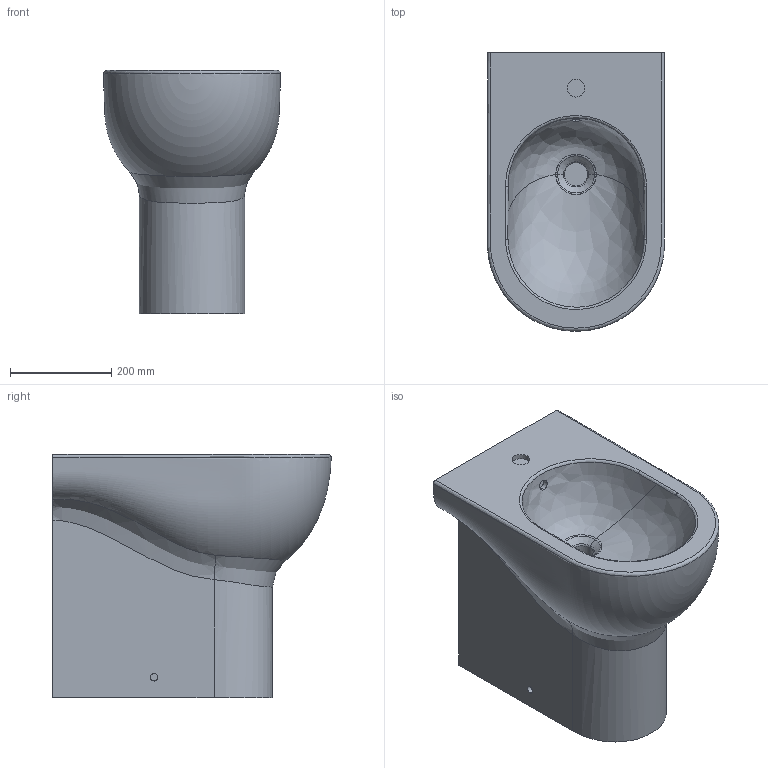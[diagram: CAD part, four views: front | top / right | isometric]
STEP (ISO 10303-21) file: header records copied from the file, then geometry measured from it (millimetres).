
FILE_DESCRIPTION (( 'STEP AP203' ), '1' );
FILE_NAME ('NUV500_48.STEP', '2017-12-07T11:09:44', ( '' ), ( '' ), 'SwSTEP 2.0', 'SolidWorks 2018', '' );
FILE_SCHEMA (( 'CONFIG_CONTROL_DESIGN' ));
Length unit declared in the file: millimetre
Products named in the file (1): NUV500_48
Bounding box: 349.65 x 549.9 x 480 mm (x, y, z)
Volume: 46138189.5 mm3; surface area: 1016709.3 mm2
Topology: 1 solids, 1 shells, 56 faces, 136 edges, 89 vertices
Faces by surface type: bspline 19, cylinder 17, plane 14, torus 4, cone 2
Entity records: 29985 total; most frequent: CARTESIAN_POINT 28727, ORIENTED_EDGE 272, DIRECTION 195, EDGE_CURVE 136, VERTEX_POINT 89, AXIS2_PLACEMENT_3D 76, EDGE_LOOP 63, ADVANCED_FACE 56
